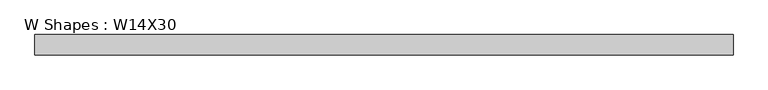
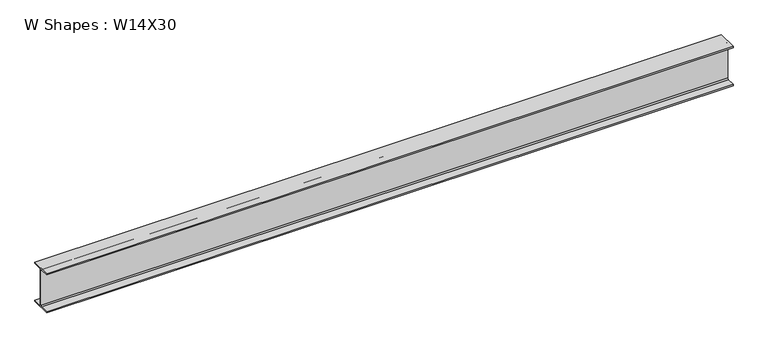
"""IFC4 building model written with IfcOpenShell, lengths in millimetres: beam geometry, W Shapes : W14X30."""

import ifcopenshell
import ifcopenshell.guid

model = None  # the IFC model being written
_history = None  # IfcOwnerHistory: only IFC2X3 demands one
_inside = {}  # id of a spatial element -> (the spatial element, [elements in it])
_under = {}  # id of a project, library or spatial element -> (it, [spatial elements below it])
_declared = {}  # id of a project -> (the project, [libraries it declares])
_typed = {}  # id of a type object -> (the type object, [elements of that type])
_made_of = {}  # id of a material, layer set ... -> (it, [elements and type objects made of it])


def new_model(schema):
    """Start an empty IFC model of exactly this schema.

    Asked for "IFC4X3", IfcOpenShell would pick the latest addendum, in which some entities
    have other attributes; the version numbers below select the first issue.
    IFC2X3 requires an IfcOwnerHistory on every rooted entity: one is made here for all.
    """
    global model, _history
    if schema == "IFC4X3":
        model = ifcopenshell.file(schema_version=(4, 3, 0, 0))
    else:
        model = ifcopenshell.file(schema=schema)
    _inside.clear()
    _under.clear()
    _declared.clear()
    _typed.clear()
    _made_of.clear()
    _history = None
    if model.schema == "IFC2X3":
        org = make("IfcOrganization", Name="unknown")
        user = make(
            "IfcPersonAndOrganization",
            ThePerson=make("IfcPerson", FamilyName="unknown"),
            TheOrganization=org,
        )
        app = make(
            "IfcApplication",
            ApplicationDeveloper=org,
            Version="unknown",
            ApplicationFullName="unknown",
            ApplicationIdentifier="unknown",
        )
        _history = make(
            "IfcOwnerHistory",
            OwningUser=user,
            OwningApplication=app,
            ChangeAction="ADDED",
            CreationDate=0,
        )
    return model


def make(cls, **values):
    """One entity of the class cls with the attributes given. An attribute that is None is left unset."""
    return model.create_entity(
        cls, **{name: value for name, value in values.items() if value is not None}
    )


def rooted(cls, **values):
    """An entity with a GlobalId (a new one), such as an element, a storey or a relation."""
    return make(cls, GlobalId=ifcopenshell.guid.new(), OwnerHistory=_history, **values)


def si_unit(unit_type, name, prefix=None):
    """IfcSIUnit, for example si_unit("LENGTHUNIT", "METRE", prefix="MILLI")."""
    return make("IfcSIUnit", UnitType=unit_type, Prefix=prefix, Name=name)


def assignment(units):
    """IfcUnitAssignment: the units of a project."""
    return None if units is None else make("IfcUnitAssignment", Units=units)


def point(xyz):
    """IfcCartesianPoint."""
    return None if xyz is None else make("IfcCartesianPoint", Coordinates=xyz)


def direction(xyz):
    """IfcDirection."""
    return None if xyz is None else make("IfcDirection", DirectionRatios=xyz)


def frame(location, z_axis=None, x_axis=None):
    """IfcAxis2Placement3D, a coordinate frame: its origin and axes. An axis left out is left unset."""
    return make(
        "IfcAxis2Placement3D",
        Location=point(location),
        Axis=direction(z_axis),
        RefDirection=direction(x_axis),
    )


def frame_2d(location, x_axis=None):
    """IfcAxis2Placement2D, a coordinate frame in the plane: its origin and x axis."""
    return make(
        "IfcAxis2Placement2D", Location=point(location), RefDirection=direction(x_axis)
    )


def origin():
    """The frame at (0, 0, 0) with its axes left unset."""
    return frame((0.0, 0.0, 0.0))


def place(relative_to, where):
    """IfcLocalPlacement: puts the frame where relative to a parent placement (None: the world)."""
    return make(
        "IfcLocalPlacement", PlacementRelTo=relative_to, RelativePlacement=where
    )


def context(
    kind, dimensions, precision=None, world=None, true_north=None, identifier=None
):
    """IfcGeometricRepresentationContext, for example the 3D "Model" context."""
    return make(
        "IfcGeometricRepresentationContext",
        ContextIdentifier=identifier,
        ContextType=kind,
        CoordinateSpaceDimension=dimensions,
        Precision=precision,
        WorldCoordinateSystem=world,
        TrueNorth=true_north,
    )


def project(units=None, contexts=None):
    """IfcProject with its units and contexts."""
    return rooted(
        "IfcProject",
        Name="project",
        RepresentationContexts=contexts,
        UnitsInContext=assignment(units),
    )


def spatial(cls, under=None, at=None, **own):
    """A site, building, storey or space (cls), placed at a placement, below another one or the project."""
    s = rooted(cls, ObjectPlacement=at, **own)
    if under is not None:
        _under.setdefault(under.id(), (under, []))[1].append(s)
    return s


def polyline(points):
    """IfcPolyline through the points."""
    return make("IfcPolyline", Points=[point(p) for p in points])


def circle_curve(where, radius):
    """IfcCircle in the frame where."""
    return make("IfcCircle", Position=where, Radius=radius)


def trimmed(basis, trim1, trim2, sense, master):
    """IfcTrimmedCurve: the piece of a basis curve between two trims."""
    return make(
        "IfcTrimmedCurve",
        BasisCurve=basis,
        Trim1=trim1,
        Trim2=trim2,
        SenseAgreement=sense,
        MasterRepresentation=master,
    )


def segment(curve, same_sense, transition):
    """IfcCompositeCurveSegment."""
    return make(
        "IfcCompositeCurveSegment",
        Transition=transition,
        SameSense=same_sense,
        ParentCurve=curve,
    )


def composite_curve(segments, self_intersect=None):
    """IfcCompositeCurve: segments joined end to end."""
    return make("IfcCompositeCurve", Segments=segments, SelfIntersect=self_intersect)


def outline(outer, holes=None, kind="AREA"):
    """IfcArbitraryClosedProfileDef: a profile drawn as a closed curve; with holes, ...WithVoids."""
    if holes is None:
        return make("IfcArbitraryClosedProfileDef", ProfileType=kind, OuterCurve=outer)
    return make(
        "IfcArbitraryProfileDefWithVoids",
        ProfileType=kind,
        OuterCurve=outer,
        InnerCurves=holes,
    )


def extrude(swept, where, along, depth):
    """IfcExtrudedAreaSolid: the profile swept, set in the frame where, extruded along a direction by depth."""
    return make(
        "IfcExtrudedAreaSolid",
        SweptArea=swept,
        Position=where,
        ExtrudedDirection=direction(along),
        Depth=depth,
    )


def shape(context_of_items, identifier, shape_type, items):
    """IfcShapeRepresentation: the items that make up one representation, for example the "Body"."""
    return make(
        "IfcShapeRepresentation",
        ContextOfItems=context_of_items,
        RepresentationIdentifier=identifier,
        RepresentationType=shape_type,
        Items=items,
    )


def source(mapping_origin, context_of_items, identifier, shape_type, items):
    """IfcRepresentationMap: a shape defined once, which mapped items show again and again."""
    return make(
        "IfcRepresentationMap",
        MappingOrigin=mapping_origin,
        MappedRepresentation=shape(context_of_items, identifier, shape_type, items),
    )


def transform(
    local_origin,
    x_axis=None,
    y_axis=None,
    z_axis=None,
    scale=None,
    scale2=None,
    scale3=None,
    uniform=True,
):
    """IfcCartesianTransformationOperator3D, or its non-uniform kind. x_axis, y_axis, z_axis: its Axis1, 2, 3."""
    if uniform:
        return make(
            "IfcCartesianTransformationOperator3D",
            Axis1=direction(x_axis),
            Axis2=direction(y_axis),
            LocalOrigin=point(local_origin),
            Scale=scale,
            Axis3=direction(z_axis),
        )
    return make(
        "IfcCartesianTransformationOperator3DnonUniform",
        Axis1=direction(x_axis),
        Axis2=direction(y_axis),
        LocalOrigin=point(local_origin),
        Scale=scale,
        Axis3=direction(z_axis),
        Scale2=scale2,
        Scale3=scale3,
    )


def mapped(mapping_source, mapping_target):
    """IfcMappedItem: shows the shape of a source again, moved by a transform."""
    return make(
        "IfcMappedItem", MappingSource=mapping_source, MappingTarget=mapping_target
    )


def made_of(thing, what):
    """Note that an element or type object is made of a material, layer set ...; save() writes the relation."""
    if what is not None:
        _made_of.setdefault(what.id(), (what, []))[1].append(thing)
    return thing


def element(
    cls,
    number,
    at=None,
    inside=None,
    cuts=None,
    type_object=None,
    material=None,
    context=None,
    identifier="Body",
    shape_type=None,
    held_by="IfcProductDefinitionShape",
    body=None,
    shapes=None,
    **own,
):
    """One element of the class cls, such as IfcWall. Its Tag is "e" and its number.

    at: its placement. inside: the storey or other place that contains it. cuts: it is an
    opening in that element (IfcRelVoidsElement). A single representation is given by context,
    identifier, shape_type and body (its items); several are given by shapes. held_by: the class
    of the entity that holds the representations. save() writes the other relations.
    """
    e = rooted(cls, Tag="e%d" % number, ObjectPlacement=at, **own)
    if body is not None:
        shapes = [shape(context, identifier, shape_type, body)]
    if shapes is not None:
        e.Representation = make(held_by, Representations=shapes)
    if inside is not None:
        _inside.setdefault(inside.id(), (inside, []))[1].append(e)
    if cuts is not None:
        rooted(
            "IfcRelVoidsElement", RelatingBuildingElement=cuts, RelatedOpeningElement=e
        )
    if type_object is not None:
        _typed.setdefault(type_object.id(), (type_object, []))[1].append(e)
    return made_of(e, material)


def aggregate(whole, parts):
    """IfcRelAggregates: a whole, such as a stair, and the parts it consists of."""
    return rooted("IfcRelAggregates", RelatingObject=whole, RelatedObjects=parts)


def save(model, path):
    """Write the relations noted so far, then the file.

    IfcRelAggregates (storeys below a building ...), IfcRelContainedInSpatialStructure (elements
    in a storey), IfcRelDefinesByType, IfcRelAssociatesMaterial and IfcRelDeclares: one each for
    every whole, place, type object, material and project.
    """
    for whole, parts in _under.values():
        aggregate(whole, parts)
    for where, things in _inside.values():
        rooted(
            "IfcRelContainedInSpatialStructure",
            RelatedElements=things,
            RelatingStructure=where,
        )
    for kind, things in _typed.values():
        rooted("IfcRelDefinesByType", RelatedObjects=things, RelatingType=kind)
    for what, things in _made_of.values():
        rooted("IfcRelAssociatesMaterial", RelatedObjects=things, RelatingMaterial=what)
    for by, libraries in _declared.values():
        rooted("IfcRelDeclares", RelatingContext=by, RelatedDefinitions=libraries)
    model.write(path)


def w_shapes_w14x30_4b075543(model_context):
    return source(origin(), model_context, "Body", "SweptSolid", [
        extrude(outline(composite_curve([segment(polyline([(85.471, -165.481), (85.471, -175.26), (-85.471, -175.26), (-85.471, -165.481), (-13.589, -165.481)]), True, "CONTINUOUS"), segment(trimmed(circle_curve(frame_2d((-13.589, -155.321)), 10.16), [point((-13.589, -165.481))], [point((-3.429, -155.321))], True, "CARTESIAN"), True, "CONTINUOUS"), segment(polyline([(-3.429, -155.321), (-3.429, 155.321)]), True, "CONTINUOUS"), segment(trimmed(circle_curve(frame_2d((-13.589, 155.321)), 10.16), [point((-3.429, 155.321))], [point((-13.589, 165.481))], True, "CARTESIAN"), True, "CONTINUOUS"), segment(polyline([(-13.589, 165.481), (-85.471, 165.481), (-85.471, 175.26), (85.471, 175.26), (85.471, 165.481), (13.589, 165.481)]), True, "CONTINUOUS"), segment(trimmed(circle_curve(frame_2d((13.589, 155.321)), 10.16), [point((13.589, 165.481))], [point((3.429, 155.321))], True, "CARTESIAN"), True, "CONTINUOUS"), segment(polyline([(3.429, 155.321), (3.429, -155.321)]), True, "CONTINUOUS"), segment(trimmed(circle_curve(frame_2d((13.589, -155.321)), 10.16), [point((3.429, -155.321))], [point((13.589, -165.481))], True, "CARTESIAN"), True, "CONTINUOUS"), segment(polyline([(13.589, -165.481), (85.471, -165.481)]), True, "CONTINUOUS")], self_intersect=False)), frame((-2911.729, 0.0, 0.0), z_axis=(1.0, 0.0, 0.0), x_axis=(0.0, 1.0, 0.0)), (0.0, 0.0, 1.0), 5823.458),
    ])


if __name__ == "__main__":
    model = new_model("IFC4")
    model_context = context("Model", 3, world=origin())
    ifc_project = project(units=[si_unit("LENGTHUNIT", "METRE", prefix="MILLI")], contexts=[model_context])
    site = spatial("IfcSite", under=ifc_project)
    building = spatial("IfcBuilding", under=site)
    placement = place(None, origin())
    w_shapes_w14x30_shape = w_shapes_w14x30_4b075543(model_context)
    element("IfcBeam", 1, ObjectType="W Shapes : W14X30", at=placement, inside=building, context=model_context, shape_type="MappedRepresentation", body=[
        mapped(w_shapes_w14x30_shape, transform((0.0, 0.0, 0.0), x_axis=(1.0, 0.0, 0.0), y_axis=(0.0, 1.0, 0.0), z_axis=(0.0, 0.0, 1.0))),
    ])
    save(model, "model.ifc")
